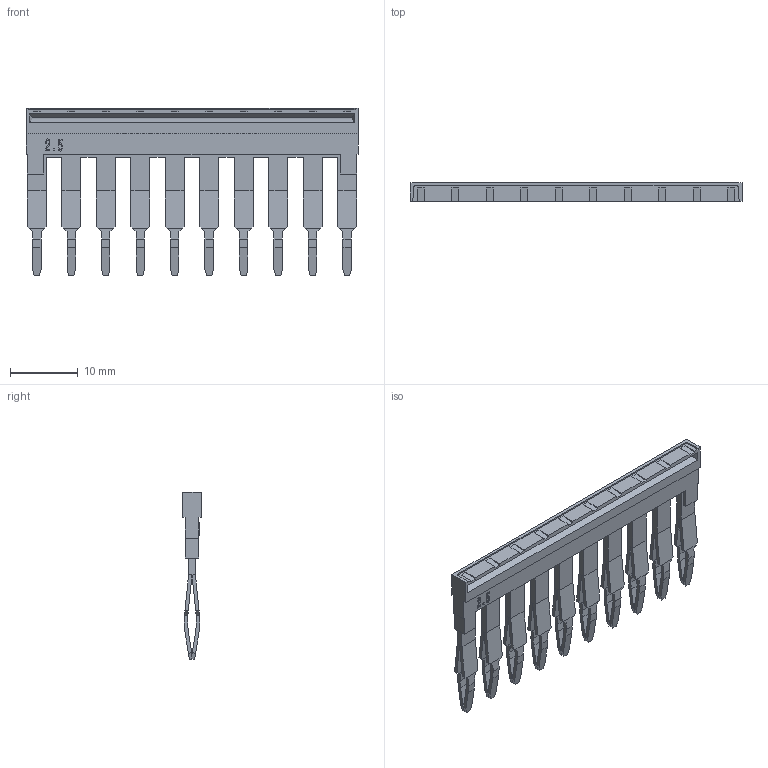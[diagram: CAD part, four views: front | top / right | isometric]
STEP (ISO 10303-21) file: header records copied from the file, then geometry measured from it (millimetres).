
FILE_DESCRIPTION(('CATIA V5R20 STEP214','CAx-IF Rec.Pracs.--- Model Styling and Organization---1.2---2011-12-15'),'2;1');
FILE_NAME('Z:\w000324_CT06827\1527690000_ZQV_2-5N_10.stp','2015-11-17T06:02:32+00:00',('Weidmueller Interface'),('WI'),'CATIA Version 5-6 Release 2014 SP4','CATIA V5 STEP AP214','none');
FILE_SCHEMA(('AUTOMOTIVE_DESIGN { 1 0 10303 214 1 1 1 1 }'));
Length unit declared in the file: millimetre
Products named in the file (1): 1527690000_ZQV_2-5N_10
Bounding box: 49.1 x 2.8 x 24.72 mm (x, y, z)
Volume: 1135.1 mm3; surface area: 2814.7 mm2
Topology: 2 solids, 2 shells, 550 faces, 1563 edges, 1002 vertices
Faces by surface type: plane 508, bspline 40, cylinder 2
Entity records: 16908 total; most frequent: CARTESIAN_POINT 4239, ORIENTED_EDGE 3126, DIRECTION 1835, EDGE_CURVE 1563, VECTOR 1313, LINE 1313, VERTEX_POINT 1002, EDGE_LOOP 555
